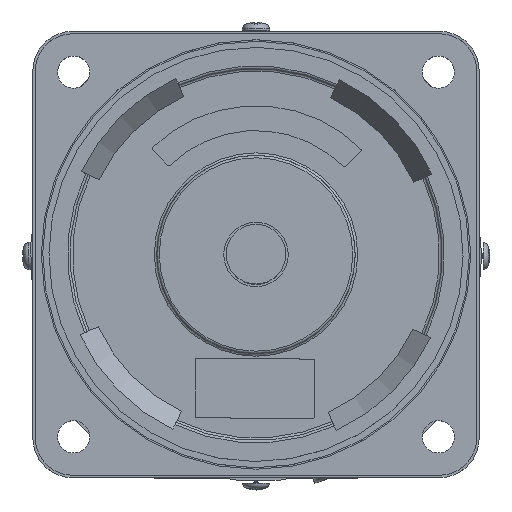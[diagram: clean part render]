
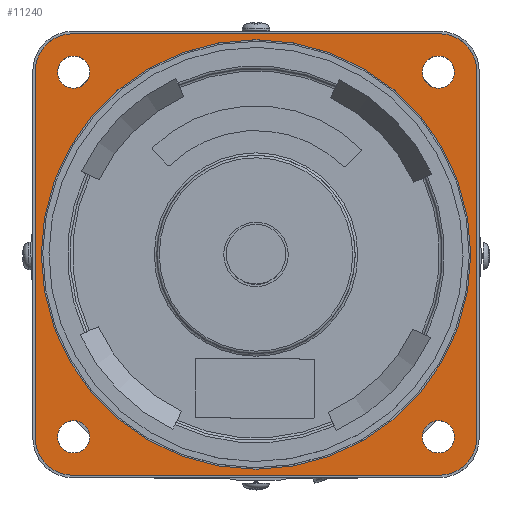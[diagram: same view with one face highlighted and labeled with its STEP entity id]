
A CAD part, top view. The second image highlights one B-rep face of the part: STEP entity #11240.
In plain terms, the highlighted planar face has unit normal (0, 0, 1).
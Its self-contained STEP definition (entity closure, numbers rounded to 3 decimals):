
#588=FACE_BOUND('',#1615,.T.);
#589=FACE_BOUND('',#1616,.T.);
#590=FACE_BOUND('',#1617,.T.);
#591=FACE_BOUND('',#1618,.T.);
#592=FACE_BOUND('',#1619,.T.);
#714=PLANE('',#11915);
#970=FACE_OUTER_BOUND('',#1614,.T.);
#1614=EDGE_LOOP('',(#7193,#7194,#7195,#7196,#7197,#7198,#7199,#7200));
#1615=EDGE_LOOP('',(#7201));
#1616=EDGE_LOOP('',(#7202));
#1617=EDGE_LOOP('',(#7203));
#1618=EDGE_LOOP('',(#7204));
#1619=EDGE_LOOP('',(#7205));
#2430=CIRCLE('',#11916,7.5);
#2431=CIRCLE('',#11917,7.5);
#2432=CIRCLE('',#11918,7.5);
#2433=CIRCLE('',#11919,7.5);
#2434=CIRCLE('',#11920,3.25);
#2435=CIRCLE('',#11921,3.25);
#2436=CIRCLE('',#11922,43.3);
#2437=CIRCLE('',#11923,3.25);
#2438=CIRCLE('',#11924,3.25);
#3132=LINE('',#16612,#3778);
#3133=LINE('',#16616,#3779);
#3134=LINE('',#16620,#3780);
#3135=LINE('',#16623,#3781);
#3778=VECTOR('',#13269,74.);
#3779=VECTOR('',#13272,74.);
#3780=VECTOR('',#13275,74.);
#3781=VECTOR('',#13278,74.);
#4436=VERTEX_POINT('',#16608);
#4437=VERTEX_POINT('',#16609);
#4438=VERTEX_POINT('',#16611);
#4439=VERTEX_POINT('',#16613);
#4440=VERTEX_POINT('',#16615);
#4441=VERTEX_POINT('',#16617);
#4442=VERTEX_POINT('',#16619);
#4443=VERTEX_POINT('',#16621);
#4444=VERTEX_POINT('',#16624);
#4445=VERTEX_POINT('',#16626);
#4446=VERTEX_POINT('',#16628);
#4447=VERTEX_POINT('',#16630);
#4448=VERTEX_POINT('',#16632);
#5529=EDGE_CURVE('',#4436,#4437,#2430,.T.);
#5530=EDGE_CURVE('',#4438,#4436,#3132,.T.);
#5531=EDGE_CURVE('',#4439,#4438,#2431,.T.);
#5532=EDGE_CURVE('',#4440,#4439,#3133,.T.);
#5533=EDGE_CURVE('',#4441,#4440,#2432,.T.);
#5534=EDGE_CURVE('',#4442,#4441,#3134,.T.);
#5535=EDGE_CURVE('',#4443,#4442,#2433,.T.);
#5536=EDGE_CURVE('',#4437,#4443,#3135,.T.);
#5537=EDGE_CURVE('',#4444,#4444,#2434,.F.);
#5538=EDGE_CURVE('',#4445,#4445,#2435,.F.);
#5539=EDGE_CURVE('',#4446,#4446,#2436,.T.);
#5540=EDGE_CURVE('',#4447,#4447,#2437,.F.);
#5541=EDGE_CURVE('',#4448,#4448,#2438,.F.);
#7193=ORIENTED_EDGE('',*,*,#5529,.F.);
#7194=ORIENTED_EDGE('',*,*,#5530,.F.);
#7195=ORIENTED_EDGE('',*,*,#5531,.F.);
#7196=ORIENTED_EDGE('',*,*,#5532,.F.);
#7197=ORIENTED_EDGE('',*,*,#5533,.F.);
#7198=ORIENTED_EDGE('',*,*,#5534,.F.);
#7199=ORIENTED_EDGE('',*,*,#5535,.F.);
#7200=ORIENTED_EDGE('',*,*,#5536,.F.);
#7201=ORIENTED_EDGE('',*,*,#5537,.F.);
#7202=ORIENTED_EDGE('',*,*,#5538,.F.);
#7203=ORIENTED_EDGE('',*,*,#5539,.T.);
#7204=ORIENTED_EDGE('',*,*,#5540,.F.);
#7205=ORIENTED_EDGE('',*,*,#5541,.F.);
#11240=ADVANCED_FACE('',(#970,#588,#589,#590,#591,#592),#714,.T.);
#11915=AXIS2_PLACEMENT_3D('',#16607,#13265,#13266);
#11916=AXIS2_PLACEMENT_3D('',#16610,#13267,#13268);
#11917=AXIS2_PLACEMENT_3D('',#16614,#13270,#13271);
#11918=AXIS2_PLACEMENT_3D('',#16618,#13273,#13274);
#11919=AXIS2_PLACEMENT_3D('',#16622,#13276,#13277);
#11920=AXIS2_PLACEMENT_3D('',#16625,#13279,#13280);
#11921=AXIS2_PLACEMENT_3D('',#16627,#13281,#13282);
#11922=AXIS2_PLACEMENT_3D('',#16629,#13283,#13284);
#11923=AXIS2_PLACEMENT_3D('',#16631,#13285,#13286);
#11924=AXIS2_PLACEMENT_3D('',#16633,#13287,#13288);
#13265=DIRECTION('center_axis',(0.,0.,1.));
#13266=DIRECTION('ref_axis',(1.,0.,0.));
#13267=DIRECTION('center_axis',(0.,0.,-1.));
#13268=DIRECTION('ref_axis',(0.,-1.,0.));
#13269=DIRECTION('',(0.,1.,0.));
#13270=DIRECTION('center_axis',(0.,0.,-1.));
#13271=DIRECTION('ref_axis',(1.,0.,0.));
#13272=DIRECTION('',(-1.,0.,0.));
#13273=DIRECTION('center_axis',(0.,0.,-1.));
#13274=DIRECTION('ref_axis',(0.,1.,0.));
#13275=DIRECTION('',(0.,-1.,0.));
#13276=DIRECTION('center_axis',(0.,0.,-1.));
#13277=DIRECTION('ref_axis',(-1.,0.,0.));
#13278=DIRECTION('',(1.,0.,0.));
#13279=DIRECTION('center_axis',(0.,0.,-1.));
#13280=DIRECTION('ref_axis',(0.,1.,0.));
#13281=DIRECTION('center_axis',(0.,0.,-1.));
#13282=DIRECTION('ref_axis',(-1.,0.,0.));
#13283=DIRECTION('center_axis',(0.,0.,-1.));
#13284=DIRECTION('ref_axis',(0.,1.,0.));
#13285=DIRECTION('center_axis',(0.,0.,-1.));
#13286=DIRECTION('ref_axis',(0.,-1.,0.));
#13287=DIRECTION('center_axis',(0.,0.,-1.));
#13288=DIRECTION('ref_axis',(1.,0.,0.));
#16607=CARTESIAN_POINT('Origin',(0.355,5.246,-6.569));
#16608=CARTESIAN_POINT('',(-44.145,42.246,-6.569));
#16609=CARTESIAN_POINT('',(-36.645,49.746,-6.569));
#16610=CARTESIAN_POINT('Origin',(-36.645,42.246,-6.569));
#16611=CARTESIAN_POINT('',(-44.145,-31.754,-6.569));
#16612=CARTESIAN_POINT('',(-44.145,-31.754,-6.569));
#16613=CARTESIAN_POINT('',(-36.645,-39.254,-6.569));
#16614=CARTESIAN_POINT('Origin',(-36.645,-31.754,-6.569));
#16615=CARTESIAN_POINT('',(37.355,-39.254,-6.569));
#16616=CARTESIAN_POINT('',(37.355,-39.254,-6.569));
#16617=CARTESIAN_POINT('',(44.855,-31.754,-6.569));
#16618=CARTESIAN_POINT('Origin',(37.355,-31.754,-6.569));
#16619=CARTESIAN_POINT('',(44.855,42.246,-6.569));
#16620=CARTESIAN_POINT('',(44.855,42.246,-6.569));
#16621=CARTESIAN_POINT('',(37.355,49.746,-6.569));
#16622=CARTESIAN_POINT('Origin',(37.355,42.246,-6.569));
#16623=CARTESIAN_POINT('',(-36.645,49.746,-6.569));
#16624=CARTESIAN_POINT('',(37.124,-34.774,-6.569));
#16625=CARTESIAN_POINT('Origin',(37.124,-31.524,-6.569));
#16626=CARTESIAN_POINT('',(40.374,42.015,-6.569));
#16627=CARTESIAN_POINT('Origin',(37.124,42.015,-6.569));
#16628=CARTESIAN_POINT('',(43.655,5.246,-6.569));
#16629=CARTESIAN_POINT('Origin',(0.355,5.246,-6.569));
#16630=CARTESIAN_POINT('',(-36.415,45.265,-6.569));
#16631=CARTESIAN_POINT('Origin',(-36.415,42.015,-6.569));
#16632=CARTESIAN_POINT('',(-39.665,-31.524,-6.569));
#16633=CARTESIAN_POINT('Origin',(-36.415,-31.524,-6.569));
